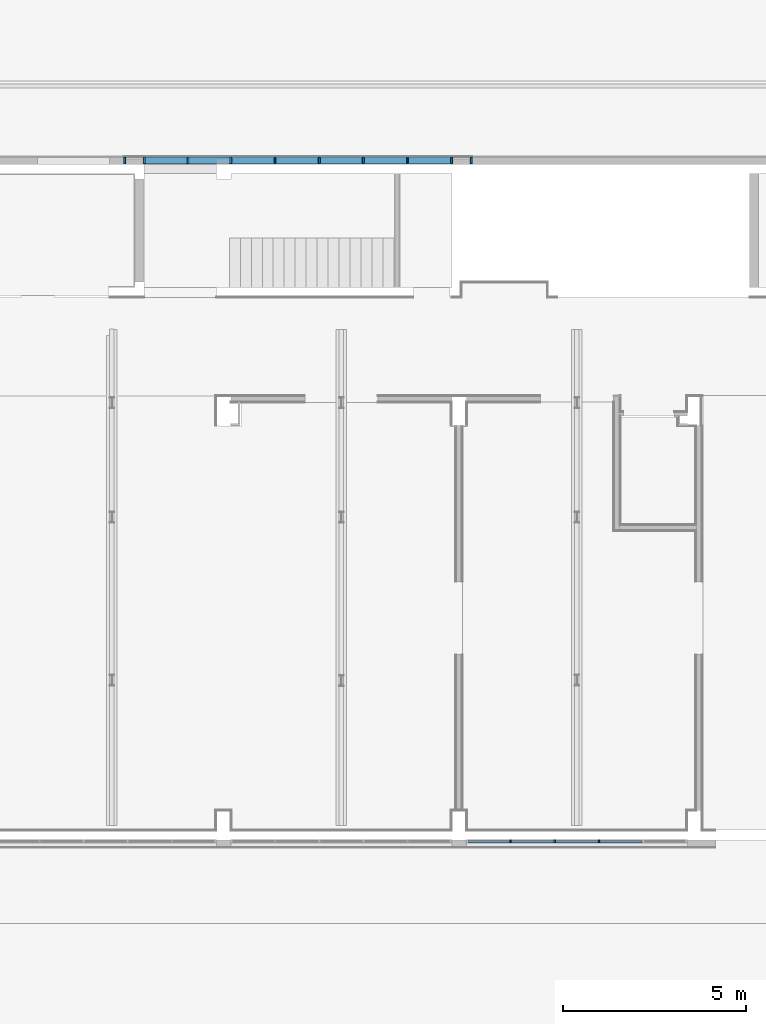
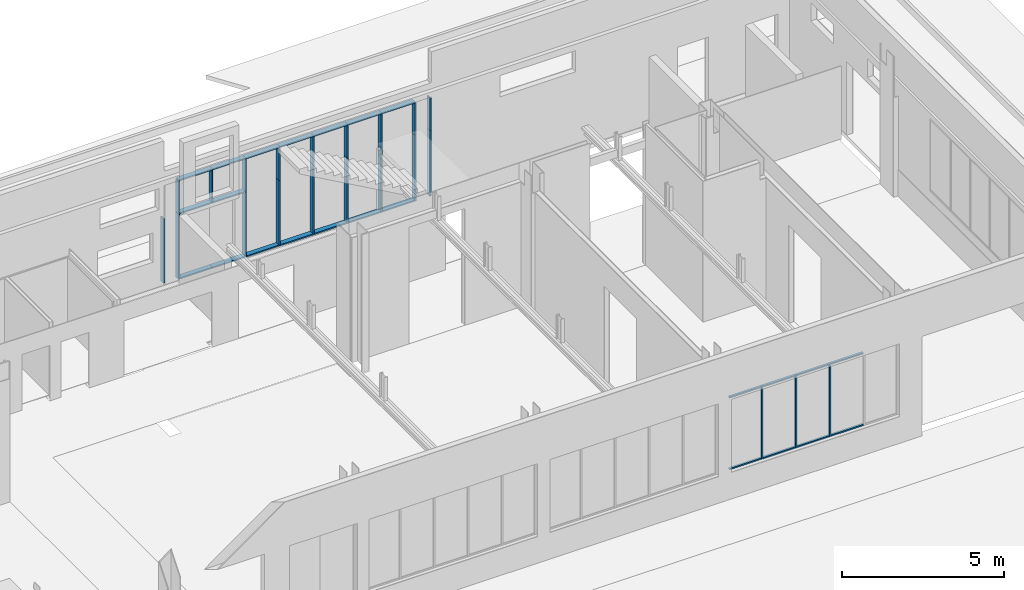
# One storey, part 4 of 27: 45 members, 2 elements without a shape of their own.
"""IFC2X3 building model written with IfcOpenShell, lengths in centimetres."""

from ifc_helpers import new_model, entity, si_unit, converted_unit, derived_unit, direction, frame, origin, origin_2d_with_axis, place, context, subcontext, project, spatial, rectangle, extrude, source, transform, mapped, material, type_object, type_shapes, element, aggregate, save


model = new_model("IFC2X3")

# Units and contexts
model_context = context("Model", 3, precision=0.001, world=origin(), true_north=direction((6.12303176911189e-17, 1.0)))
body_context = subcontext(model_context, "Body", "Model", "MODEL_VIEW")
ifc_project = project(units=[si_unit("LENGTHUNIT", "METRE", prefix="CENTI"), si_unit("AREAUNIT", "SQUARE_METRE"), si_unit("VOLUMEUNIT", "CUBIC_METRE"), converted_unit("PLANEANGLEUNIT", "DEGREE", entity("IfcRatioMeasure", 0.0174532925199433), si_unit("PLANEANGLEUNIT", "RADIAN"), dimensions=[0, 0, 0, 0, 0, 0, 0]), si_unit("MASSUNIT", "GRAM", prefix="KILO"), derived_unit("MASSDENSITYUNIT", [(si_unit("MASSUNIT", "GRAM", prefix="KILO"), 1), (si_unit("LENGTHUNIT", "METRE"), -3)]), derived_unit("MOMENTOFINERTIAUNIT", [(si_unit("LENGTHUNIT", "METRE"), 4)]), si_unit("TIMEUNIT", "SECOND"), si_unit("FREQUENCYUNIT", "HERTZ"), si_unit("THERMODYNAMICTEMPERATUREUNIT", "DEGREE_CELSIUS"), derived_unit("THERMALTRANSMITTANCEUNIT", [(si_unit("MASSUNIT", "GRAM", prefix="KILO"), 1), (si_unit("THERMODYNAMICTEMPERATUREUNIT", "KELVIN"), -1), (si_unit("TIMEUNIT", "SECOND"), -3)]), derived_unit("VOLUMETRICFLOWRATEUNIT", [(si_unit("LENGTHUNIT", "METRE"), 3), (si_unit("TIMEUNIT", "SECOND"), -1)]), si_unit("ELECTRICCURRENTUNIT", "AMPERE"), si_unit("ELECTRICVOLTAGEUNIT", "VOLT"), si_unit("POWERUNIT", "WATT"), si_unit("FORCEUNIT", "NEWTON", prefix="KILO"), si_unit("ILLUMINANCEUNIT", "LUX"), si_unit("LUMINOUSFLUXUNIT", "LUMEN"), si_unit("LUMINOUSINTENSITYUNIT", "CANDELA"), derived_unit("USERDEFINED", [(si_unit("MASSUNIT", "GRAM", prefix="KILO"), -1), (si_unit("LENGTHUNIT", "METRE"), -2), (si_unit("TIMEUNIT", "SECOND"), 3), (si_unit("LUMINOUSFLUXUNIT", "LUMEN"), 1)]), derived_unit("LINEARVELOCITYUNIT", [(si_unit("LENGTHUNIT", "METRE"), 1), (si_unit("TIMEUNIT", "SECOND"), -1)]), si_unit("PRESSUREUNIT", "PASCAL"), derived_unit("USERDEFINED", [(si_unit("LENGTHUNIT", "METRE"), -2), (si_unit("MASSUNIT", "GRAM", prefix="KILO"), 1), (si_unit("TIMEUNIT", "SECOND"), -2)]), derived_unit("LINEARFORCEUNIT", [(si_unit("MASSUNIT", "GRAM", prefix="KILO"), 1), (si_unit("LENGTHUNIT", "METRE"), 1), (si_unit("TIMEUNIT", "SECOND"), -2), (si_unit("LENGTHUNIT", "METRE"), -1)]), derived_unit("PLANARFORCEUNIT", [(si_unit("MASSUNIT", "GRAM", prefix="KILO"), 1), (si_unit("LENGTHUNIT", "METRE"), 1), (si_unit("TIMEUNIT", "SECOND"), -2), (si_unit("LENGTHUNIT", "METRE"), -2)])], contexts=[model_context])

# Site, building, storey
site_placement = place(None, origin())
site = spatial("IfcSite", under=ifc_project, at=site_placement, Name="Default", CompositionType="ELEMENT")
building_placement = place(site_placement, origin())
building = spatial("IfcBuilding", under=site, at=building_placement, CompositionType="ELEMENT")
storey_placement = place(building_placement, origin())
storey = spatial("IfcBuildingStorey", under=building, at=storey_placement, Name="Poziom 0 A +/-0,00", CompositionType="ELEMENT", Elevation=3.38570427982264e-11)

# Curtain wall, members
curtain_wall_type_1 = type_object("IfcCurtainWallType", PredefinedType="NOTDEFINED")
curtain_wall_1_placement = place(storey_placement, origin())
curtain_wall_1 = element("IfcCurtainWall", 1, at=curtain_wall_1_placement, inside=storey, type_object=curtain_wall_type_1)
ifc_material = material(Name="Aluminium")
member_type_1 = type_object("IfcMemberType", Name="Prostokątny szpros:50 x 80mm", PredefinedType="MULLION", material=ifc_material)
shared_shape_1 = source(origin(), body_context, "Body", "SweptSolid", [
    extrude(rectangle(XDim=8.0, YDim=5.0, at=origin_2d_with_axis()), frame((-2.5, 0.0, -113.500173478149), z_axis=(0.0, 0.0, 1.0), x_axis=(0.0, -1.0, 0.0)), (0.0, 0.0, 1.0), 113.500173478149),
])
type_shapes(member_type_1, [shared_shape_1])
member_1_placement = place(curtain_wall_1_placement, frame((-195.762682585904, 251.127499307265, 375.0), z_axis=(1.0, 0.0, 0.0), x_axis=(0.0, 0.0, 1.0)))
member_1 = element("IfcMember", 2, at=member_1_placement, type_object=member_type_1, Name="Prostokątny szpros:50 x 80mm", ObjectType="Prostokątny szpros:50 x 80mm", context=body_context, shape_type="MappedRepresentation", body=[
    mapped(shared_shape_1, transform((0.0, 0.0, 0.0), scale=1.0)),
])
member_type_2 = type_object("IfcMemberType", Name="Prostokątny szpros:50 x 80mm", PredefinedType="MULLION", material=ifc_material)
shared_shape_2 = source(origin(), body_context, "Body", "SweptSolid", [
    extrude(rectangle(XDim=8.0, YDim=5.0, at=origin_2d_with_axis()), frame((-2.5, 0.0, -113.500173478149), z_axis=(0.0, 0.0, 1.0), x_axis=(0.0, -1.0, 0.0)), (0.0, 0.0, 1.0), 113.500173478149),
])
type_shapes(member_type_2, [shared_shape_2])
member_2_placement = place(curtain_wall_1_placement, frame((-309.264988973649, 251.127499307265, 100.0), z_axis=(-1.0, 0.0, 0.0), x_axis=(0.0, 0.0, -1.0)))
member_2 = element("IfcMember", 3, at=member_2_placement, type_object=member_type_2, Name="Prostokątny szpros:50 x 80mm", ObjectType="Prostokątny szpros:50 x 80mm", context=body_context, shape_type="MappedRepresentation", body=[
    mapped(shared_shape_2, transform((0.0, 0.0, 0.0), scale=1.0)),
])
member_type_3 = type_object("IfcMemberType", Name="Prostokątny szpros:50 x 80mm", PredefinedType="MULLION", material=ifc_material)
shared_shape_3 = source(origin(), body_context, "Body", "SweptSolid", [
    extrude(rectangle(XDim=8.0, YDim=5.0, at=origin_2d_with_axis()), frame((-2.5, 0.0, -116.002333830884), z_axis=(0.0, 0.0, 1.0), x_axis=(0.0, -1.0, 0.0)), (0.0, 0.0, 1.0), 116.002333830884),
])
type_shapes(member_type_3, [shared_shape_3])
member_3_placement = place(curtain_wall_1_placement, frame((-190.762682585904, 251.127499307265, 100.0), z_axis=(-1.0, 0.0, 0.0), x_axis=(0.0, 0.0, -1.0)))
member_3 = element("IfcMember", 4, at=member_3_placement, type_object=member_type_3, Name="Prostokątny szpros:50 x 80mm", ObjectType="Prostokątny szpros:50 x 80mm", context=body_context, shape_type="MappedRepresentation", body=[
    mapped(shared_shape_3, transform((0.0, 0.0, 0.0), scale=1.0)),
])
member_4_placement = place(curtain_wall_1_placement, frame((-69.7626825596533, 251.127499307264, 100.0), z_axis=(-1.0, 0.0, 0.0), x_axis=(0.0, 0.0, -1.0)))
member_4 = element("IfcMember", 5, at=member_4_placement, type_object=member_type_3, Name="Prostokątny szpros:50 x 80mm", ObjectType="Prostokątny szpros:50 x 80mm", context=body_context, shape_type="MappedRepresentation", body=[
    mapped(shared_shape_3, transform((0.0, 0.0, 0.0), scale=1.0)),
])
member_5_placement = place(curtain_wall_1_placement, frame((51.2373217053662, 251.127499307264, 100.0), z_axis=(-1.0, 0.0, 0.0), x_axis=(0.0, 0.0, -1.0)))
member_5 = element("IfcMember", 6, at=member_5_placement, type_object=member_type_3, Name="Prostokątny szpros:50 x 80mm", ObjectType="Prostokątny szpros:50 x 80mm", context=body_context, shape_type="MappedRepresentation", body=[
    mapped(shared_shape_3, transform((0.0, 0.0, 0.0), scale=1.0)),
])
member_type_4 = type_object("IfcMemberType", Name="Prostokątny szpros:50 x 80mm", PredefinedType="MULLION", material=ifc_material)
shared_shape_4 = source(origin(), body_context, "Body", "SweptSolid", [
    extrude(rectangle(XDim=8.0, YDim=5.0, at=origin_2d_with_axis()), frame((0.0, 0.0, -275.0), z_axis=(0.0, 0.0, 1.0), x_axis=(0.0, -1.0, 0.0)), (0.0, 0.0, 1.0), 274.999999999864),
])
type_shapes(member_type_4, [shared_shape_4])
member_6_placement = place(curtain_wall_1_placement, frame((-193.262682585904, 251.127499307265, 100.0), z_axis=(0.0, 0.0, -1.0), x_axis=(1.0, 0.0, 0.0)))
member_6 = element("IfcMember", 7, at=member_6_placement, type_object=member_type_4, Name="Prostokątny szpros:50 x 80mm", ObjectType="Prostokątny szpros:50 x 80mm", context=body_context, shape_type="MappedRepresentation", body=[
    mapped(shared_shape_4, transform((0.0, 0.0, 0.0), scale=1.0)),
])
member_7_placement = place(curtain_wall_1_placement, frame((-72.2626825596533, 251.127499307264, 100.0), z_axis=(0.0, 0.0, -1.0), x_axis=(1.0, 0.0, 0.0)))
member_7 = element("IfcMember", 8, at=member_7_placement, type_object=member_type_4, Name="Prostokątny szpros:50 x 80mm", ObjectType="Prostokątny szpros:50 x 80mm", context=body_context, shape_type="MappedRepresentation", body=[
    mapped(shared_shape_4, transform((0.0, 0.0, 0.0), scale=1.0)),
])
member_8_placement = place(curtain_wall_1_placement, frame((48.7373217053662, 251.127499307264, 100.0), z_axis=(0.0, 0.0, -1.0), x_axis=(1.0, 0.0, 0.0)))
member_8 = element("IfcMember", 9, at=member_8_placement, type_object=member_type_4, Name="Prostokątny szpros:50 x 80mm", ObjectType="Prostokątny szpros:50 x 80mm", context=body_context, shape_type="MappedRepresentation", body=[
    mapped(shared_shape_4, transform((0.0, 0.0, 0.0), scale=1.0)),
])
member_type_5 = type_object("IfcMemberType", Name="Prostokątny szpros:50 x 80mm", PredefinedType="MULLION", material=ifc_material)
shared_shape_5 = source(origin(), body_context, "Body", "SweptSolid", [
    extrude(rectangle(XDim=8.0, YDim=5.0, at=origin_2d_with_axis()), frame((-2.5, 0.0, -116.002333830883), z_axis=(0.0, 0.0, 1.0), x_axis=(0.0, -1.0, 0.0)), (0.0, 0.0, 1.0), 116.002333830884),
])
type_shapes(member_type_5, [shared_shape_5])
member_9_placement = place(curtain_wall_1_placement, frame((-74.7626825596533, 251.127499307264, 375.0), z_axis=(1.0, 0.0, 0.0), x_axis=(0.0, 0.0, 1.0)))
member_9 = element("IfcMember", 10, at=member_9_placement, type_object=member_type_5, Name="Prostokątny szpros:50 x 80mm", ObjectType="Prostokątny szpros:50 x 80mm", context=body_context, shape_type="MappedRepresentation", body=[
    mapped(shared_shape_5, transform((0.0, 0.0, 0.0), scale=1.0)),
])
member_10_placement = place(curtain_wall_1_placement, frame((46.2373217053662, 251.127499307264, 375.0), z_axis=(1.0, 0.0, 0.0), x_axis=(0.0, 0.0, 1.0)))
member_10 = element("IfcMember", 11, at=member_10_placement, type_object=member_type_5, Name="Prostokątny szpros:50 x 80mm", ObjectType="Prostokątny szpros:50 x 80mm", context=body_context, shape_type="MappedRepresentation", body=[
    mapped(shared_shape_5, transform((0.0, 0.0, 0.0), scale=1.0)),
])
member_11_placement = place(curtain_wall_1_placement, frame((167.237321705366, 251.127499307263, 375.0), z_axis=(1.0, 0.0, 0.0), x_axis=(0.0, 0.0, 1.0)))
member_11 = element("IfcMember", 12, at=member_11_placement, type_object=member_type_5, Name="Prostokątny szpros:50 x 80mm", ObjectType="Prostokątny szpros:50 x 80mm", context=body_context, shape_type="MappedRepresentation", body=[
    mapped(shared_shape_5, transform((0.0, 0.0, 0.0), scale=1.0)),
])
aggregate(curtain_wall_1, [member_2, member_1, member_3, member_6, member_9, member_4, member_7, member_10, member_5, member_8, member_11])

curtain_wall_type_2 = type_object("IfcCurtainWallType", PredefinedType="NOTDEFINED")
curtain_wall_2_placement = place(storey_placement, origin())
curtain_wall_2 = element("IfcCurtainWall", 13, at=curtain_wall_2_placement, inside=storey, type_object=curtain_wall_type_2)
member_type_6 = type_object("IfcMemberType", Name="Prostokątny szpros:50 x 175mm", PredefinedType="MULLION", material=ifc_material)
shared_shape_6 = source(origin(), body_context, "Body", "SweptSolid", [
    extrude(rectangle(XDim=17.5, YDim=5.0, at=origin_2d_with_axis()), frame((-2.5, 0.0, -121.0), z_axis=(0.0, 0.0, 1.0), x_axis=(0.0, -1.0, 0.0)), (0.0, 0.0, 1.0), 121.0),
])
type_shapes(member_type_6, [shared_shape_6])
member_12_placement = place(curtain_wall_2_placement, frame((-354.265132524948, 2116.37745208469, 375.0), z_axis=(1.0, 0.0, 0.0), x_axis=(0.0, 0.0, 1.0)))
member_12 = element("IfcMember", 14, at=member_12_placement, type_object=member_type_6, Name="Prostokątny szpros:50 x 175mm", ObjectType="Prostokątny szpros:50 x 175mm", context=body_context, shape_type="MappedRepresentation", body=[
    mapped(shared_shape_6, transform((0.0, 0.0, 0.0), scale=1.0)),
])
member_13_placement = place(curtain_wall_2_placement, frame((-475.265132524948, 2116.37745208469, 375.0), z_axis=(1.0, 0.0, 0.0), x_axis=(0.0, 0.0, 1.0)))
member_13 = element("IfcMember", 15, at=member_13_placement, type_object=member_type_6, Name="Prostokątny szpros:50 x 175mm", ObjectType="Prostokątny szpros:50 x 175mm", context=body_context, shape_type="MappedRepresentation", body=[
    mapped(shared_shape_6, transform((0.0, 0.0, 0.0), scale=1.0)),
])
member_14_placement = place(curtain_wall_2_placement, frame((-596.265132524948, 2116.37745208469, 375.0), z_axis=(1.0, 0.0, 0.0), x_axis=(0.0, 0.0, 1.0)))
member_14 = element("IfcMember", 16, at=member_14_placement, type_object=member_type_6, Name="Prostokątny szpros:50 x 175mm", ObjectType="Prostokątny szpros:50 x 175mm", context=body_context, shape_type="MappedRepresentation", body=[
    mapped(shared_shape_6, transform((0.0, 0.0, 0.0), scale=1.0)),
])
member_15_placement = place(curtain_wall_2_placement, frame((-717.265132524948, 2116.37745208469, 375.0), z_axis=(1.0, 0.0, 0.0), x_axis=(0.0, 0.0, 1.0)))
member_15 = element("IfcMember", 17, at=member_15_placement, type_object=member_type_6, Name="Prostokątny szpros:50 x 175mm", ObjectType="Prostokątny szpros:50 x 175mm", context=body_context, shape_type="MappedRepresentation", body=[
    mapped(shared_shape_6, transform((0.0, 0.0, 0.0), scale=1.0)),
])
member_16_placement = place(curtain_wall_2_placement, frame((-838.265132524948, 2116.37745208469, 375.0), z_axis=(1.0, 0.0, 0.0), x_axis=(0.0, 0.0, 1.0)))
member_16 = element("IfcMember", 18, at=member_16_placement, type_object=member_type_6, Name="Prostokątny szpros:50 x 175mm", ObjectType="Prostokątny szpros:50 x 175mm", context=body_context, shape_type="MappedRepresentation", body=[
    mapped(shared_shape_6, transform((0.0, 0.0, 0.0), scale=1.0)),
])
member_type_7 = type_object("IfcMemberType", Name="Prostokątny szpros:50 x 175mm", PredefinedType="MULLION", material=ifc_material)
shared_shape_7 = source(origin(), body_context, "Body", "SweptSolid", [
    extrude(rectangle(XDim=17.5, YDim=5.0, at=origin_2d_with_axis()), frame((-2.5, 0.0, -116.0), z_axis=(0.0, 0.0, 1.0), x_axis=(0.0, -1.0, 0.0)), (0.0, 0.0, 1.0), 116.0),
])
type_shapes(member_type_7, [shared_shape_7])
member_17_placement = place(curtain_wall_2_placement, frame((-472.765132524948, 2116.37745208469, 0.0), z_axis=(-1.0, 0.0, 0.0), x_axis=(0.0, 0.0, -1.0)))
member_17 = element("IfcMember", 19, at=member_17_placement, type_object=member_type_7, Name="Prostokątny szpros:50 x 175mm", ObjectType="Prostokątny szpros:50 x 175mm", context=body_context, shape_type="MappedRepresentation", body=[
    mapped(shared_shape_7, transform((0.0, 0.0, 0.0), scale=1.0)),
])
member_type_8 = type_object("IfcMemberType", Name="Prostokątny szpros:50 x 175mm", PredefinedType="MULLION", material=ifc_material)
shared_shape_8 = source(origin(), body_context, "Body", "SweptSolid", [
    extrude(rectangle(XDim=17.5, YDim=5.0, at=origin_2d_with_axis()), frame((-2.5, 0.0, -118.499982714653), z_axis=(0.0, 0.0, 1.0), x_axis=(0.0, -1.0, 0.0)), (0.0, 0.0, 1.0), 118.499982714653),
])
type_shapes(member_type_8, [shared_shape_8])
member_18_placement = place(curtain_wall_2_placement, frame((-959.265132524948, 2116.37745208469, 375.0), z_axis=(1.0, 0.0, 0.0), x_axis=(0.0, 0.0, 1.0)))
member_18 = element("IfcMember", 20, at=member_18_placement, type_object=member_type_8, Name="Prostokątny szpros:50 x 175mm", ObjectType="Prostokątny szpros:50 x 175mm", context=body_context, shape_type="MappedRepresentation", body=[
    mapped(shared_shape_8, transform((0.0, 0.0, 0.0), scale=1.0)),
])
member_type_9 = type_object("IfcMemberType", Name="Prostokątny szpros:50 x 175mm", PredefinedType="MULLION", material=ifc_material)
shared_shape_9 = source(origin(), body_context, "Body", "SweptSolid", [
    extrude(rectangle(XDim=17.5, YDim=5.0, at=origin_2d_with_axis()), frame((-2.5, 0.0, -119.0), z_axis=(0.0, 0.0, 1.0), x_axis=(0.0, -1.0, 0.0)), (0.0, 0.0, 1.0), 119.0),
])
type_shapes(member_type_9, [shared_shape_9])
member_19_placement = place(curtain_wall_2_placement, frame((-1077.7651152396, 2116.37745208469, 375.0), z_axis=(1.0, 0.0, 0.0), x_axis=(0.0, 0.0, 1.0)))
member_19 = element("IfcMember", 21, at=member_19_placement, type_object=member_type_9, Name="Prostokątny szpros:50 x 175mm", ObjectType="Prostokątny szpros:50 x 175mm", context=body_context, shape_type="MappedRepresentation", body=[
    mapped(shared_shape_9, transform((0.0, 0.0, 0.0), scale=1.0)),
])
member_type_10 = type_object("IfcMemberType", Name="Prostokątny szpros:50 x 175mm", PredefinedType="MULLION", material=ifc_material)
shared_shape_10 = source(origin(), body_context, "Body", "SweptSolid", [
    extrude(rectangle(XDim=17.5, YDim=5.0, at=origin_2d_with_axis()), frame((-2.5, 0.0, -247.499999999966), z_axis=(0.0, 0.0, 1.0), x_axis=(0.0, -1.0, 0.0)), (0.0, 0.0, 1.0), 247.499999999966),
])
type_shapes(member_type_10, [shared_shape_10])
member_20_placement = place(curtain_wall_2_placement, frame((-298.265132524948, 2116.37745208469, 0.0), z_axis=(0.0, 0.0, -1.0), x_axis=(1.0, 0.0, 0.0)))
member_20 = element("IfcMember", 22, at=member_20_placement, type_object=member_type_10, Name="Prostokątny szpros:50 x 175mm", ObjectType="Prostokątny szpros:50 x 175mm", context=body_context, shape_type="MappedRepresentation", body=[
    mapped(shared_shape_10, transform((0.0, 0.0, 0.0), scale=1.0)),
])
member_type_11 = type_object("IfcMemberType", Name="Prostokątny szpros:50 x 175mm", PredefinedType="MULLION", material=ifc_material)
shared_shape_11 = source(origin(), body_context, "Body", "SweptSolid", [
    extrude(rectangle(XDim=17.5, YDim=5.0, at=origin_2d_with_axis()), frame((0.0, 0.0, -247.499999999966), z_axis=(0.0, 0.0, 1.0), x_axis=(0.0, -1.0, 0.0)), (0.0, 0.0, 1.0), 247.499999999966),
])
type_shapes(member_type_11, [shared_shape_11])
member_21_placement = place(curtain_wall_2_placement, frame((-354.265132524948, 2116.37745208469, 0.0), z_axis=(0.0, 0.0, -1.0), x_axis=(1.0, 0.0, 0.0)))
member_21 = element("IfcMember", 23, at=member_21_placement, type_object=member_type_11, Name="Prostokątny szpros:50 x 175mm", ObjectType="Prostokątny szpros:50 x 175mm", context=body_context, shape_type="MappedRepresentation", body=[
    mapped(shared_shape_11, transform((0.0, 0.0, 0.0), scale=1.0)),
])
member_22_placement = place(curtain_wall_2_placement, frame((-475.265132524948, 2116.37745208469, 0.0), z_axis=(0.0, 0.0, -1.0), x_axis=(1.0, 0.0, 0.0)))
member_22 = element("IfcMember", 24, at=member_22_placement, type_object=member_type_11, Name="Prostokątny szpros:50 x 175mm", ObjectType="Prostokątny szpros:50 x 175mm", context=body_context, shape_type="MappedRepresentation", body=[
    mapped(shared_shape_11, transform((0.0, 0.0, 0.0), scale=1.0)),
])
member_23_placement = place(curtain_wall_2_placement, frame((-717.265132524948, 2116.37745208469, 0.0), z_axis=(0.0, 0.0, -1.0), x_axis=(1.0, 0.0, 0.0)))
member_23 = element("IfcMember", 25, at=member_23_placement, type_object=member_type_11, Name="Prostokątny szpros:50 x 175mm", ObjectType="Prostokątny szpros:50 x 175mm", context=body_context, shape_type="MappedRepresentation", body=[
    mapped(shared_shape_11, transform((0.0, 0.0, 0.0), scale=1.0)),
])
member_type_12 = type_object("IfcMemberType", Name="Prostokątny szpros:50 x 175mm", PredefinedType="MULLION", material=ifc_material)
shared_shape_12 = source(origin(), body_context, "Body", "SweptSolid", [
    extrude(rectangle(XDim=17.5, YDim=5.0, at=origin_2d_with_axis()), frame((-2.5, 0.0, -118.5), z_axis=(0.0, 0.0, 1.0), x_axis=(0.0, -1.0, 0.0)), (0.0, 0.0, 1.0), 118.5),
])
type_shapes(member_type_12, [shared_shape_12])
member_24_placement = place(curtain_wall_2_placement, frame((-596.265132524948, 2116.37745208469, 0.0), z_axis=(-1.0, 0.0, 0.0), x_axis=(0.0, 0.0, -1.0)))
member_24 = element("IfcMember", 26, at=member_24_placement, type_object=member_type_12, Name="Prostokątny szpros:50 x 175mm", ObjectType="Prostokątny szpros:50 x 175mm", context=body_context, shape_type="MappedRepresentation", body=[
    mapped(shared_shape_12, transform((0.0, 0.0, 0.0), scale=1.0)),
])
member_25_placement = place(curtain_wall_2_placement, frame((-838.265132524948, 2116.37745208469, 0.0), z_axis=(-1.0, 0.0, 0.0), x_axis=(0.0, 0.0, -1.0)))
member_25 = element("IfcMember", 27, at=member_25_placement, type_object=member_type_12, Name="Prostokątny szpros:50 x 175mm", ObjectType="Prostokątny szpros:50 x 175mm", context=body_context, shape_type="MappedRepresentation", body=[
    mapped(shared_shape_12, transform((0.0, 0.0, 0.0), scale=1.0)),
])
member_type_13 = type_object("IfcMemberType", Name="Prostokątny szpros:50 x 175mm", PredefinedType="MULLION", material=ifc_material)
shared_shape_13 = source(origin(), body_context, "Body", "SweptSolid", [
    extrude(rectangle(XDim=17.5, YDim=5.0, at=origin_2d_with_axis()), frame((0.0, 0.0, -242.499999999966), z_axis=(0.0, 0.0, 1.0), x_axis=(0.0, -1.0, 0.0)), (0.0, 0.0, 1.0), 242.499999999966),
])
type_shapes(member_type_13, [shared_shape_13])
member_26_placement = place(curtain_wall_2_placement, frame((-596.265132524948, 2116.37745208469, 5.0), z_axis=(0.0, 0.0, -1.0), x_axis=(1.0, 0.0, 0.0)))
member_26 = element("IfcMember", 28, at=member_26_placement, type_object=member_type_13, Name="Prostokątny szpros:50 x 175mm", ObjectType="Prostokątny szpros:50 x 175mm", context=body_context, shape_type="MappedRepresentation", body=[
    mapped(shared_shape_13, transform((0.0, 0.0, 0.0), scale=1.0)),
])
member_27_placement = place(curtain_wall_2_placement, frame((-838.265132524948, 2116.37745208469, 5.0), z_axis=(0.0, 0.0, -1.0), x_axis=(1.0, 0.0, 0.0)))
member_27 = element("IfcMember", 29, at=member_27_placement, type_object=member_type_13, Name="Prostokątny szpros:50 x 175mm", ObjectType="Prostokątny szpros:50 x 175mm", context=body_context, shape_type="MappedRepresentation", body=[
    mapped(shared_shape_13, transform((0.0, 0.0, 0.0), scale=1.0)),
])
member_type_14 = type_object("IfcMemberType", Name="Prostokątny szpros:50 x 175mm", PredefinedType="MULLION", material=ifc_material)
shared_shape_14 = source(origin(), body_context, "Body", "SweptSolid", [
    extrude(rectangle(XDim=17.5, YDim=5.0, at=origin_2d_with_axis()), frame((-2.5, 0.0, -118.5), z_axis=(0.0, 0.0, 1.0), x_axis=(0.0, -1.0, 0.0)), (0.0, 0.0, 1.0), 118.5),
])
type_shapes(member_type_14, [shared_shape_14])
member_28_placement = place(curtain_wall_2_placement, frame((-714.765132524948, 2116.37745208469, 0.0), z_axis=(-1.0, 0.0, 0.0), x_axis=(0.0, 0.0, -1.0)))
member_28 = element("IfcMember", 30, at=member_28_placement, type_object=member_type_14, Name="Prostokątny szpros:50 x 175mm", ObjectType="Prostokątny szpros:50 x 175mm", context=body_context, shape_type="MappedRepresentation", body=[
    mapped(shared_shape_14, transform((0.0, 0.0, 0.0), scale=1.0)),
])
member_29_placement = place(curtain_wall_2_placement, frame((-956.765132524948, 2116.37745208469, 0.0), z_axis=(-1.0, 0.0, 0.0), x_axis=(0.0, 0.0, -1.0)))
member_29 = element("IfcMember", 31, at=member_29_placement, type_object=member_type_14, Name="Prostokątny szpros:50 x 175mm", ObjectType="Prostokątny szpros:50 x 175mm", context=body_context, shape_type="MappedRepresentation", body=[
    mapped(shared_shape_14, transform((0.0, 0.0, 0.0), scale=1.0)),
])
member_type_15 = type_object("IfcMemberType", Name="Prostokątny szpros:50 x 175mm", PredefinedType="MULLION", material=ifc_material)
shared_shape_15 = source(origin(), body_context, "Body", "SweptSolid", [
    extrude(rectangle(XDim=17.5, YDim=5.0, at=origin_2d_with_axis()), frame((0.0, 0.0, -245.0), z_axis=(0.0, 0.0, 1.0), x_axis=(0.0, -1.0, 0.0)), (0.0, 0.0, 1.0), 244.999999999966),
])
type_shapes(member_type_15, [shared_shape_15])
member_30_placement = place(curtain_wall_2_placement, frame((-959.265132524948, 2116.37745208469, 0.0), z_axis=(0.0, 0.0, -1.0), x_axis=(1.0, 0.0, 0.0)))
member_30 = element("IfcMember", 32, at=member_30_placement, type_object=member_type_15, Name="Prostokątny szpros:50 x 175mm", ObjectType="Prostokątny szpros:50 x 175mm", context=body_context, shape_type="MappedRepresentation", body=[
    mapped(shared_shape_15, transform((0.0, 0.0, 0.0), scale=1.0)),
])
member_31_placement = place(curtain_wall_2_placement, frame((-1196.7651152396, 2116.37745208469, 0.0), z_axis=(0.0, 0.0, -1.0), x_axis=(1.0, 0.0, 0.0)))
member_31 = element("IfcMember", 33, at=member_31_placement, type_object=member_type_15, Name="Prostokątny szpros:50 x 175mm", ObjectType="Prostokątny szpros:50 x 175mm", context=body_context, shape_type="MappedRepresentation", body=[
    mapped(shared_shape_15, transform((0.0, 0.0, 0.0), scale=1.0)),
])
member_type_16 = type_object("IfcMemberType", Name="Prostokątny szpros:50 x 175mm", PredefinedType="MULLION", material=ifc_material)
shared_shape_16 = source(origin(), body_context, "Body", "SweptSolid", [
    extrude(rectangle(XDim=17.5, YDim=5.0, at=origin_2d_with_axis()), frame((-2.5, 0.0, -115.999982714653), z_axis=(0.0, 0.0, 1.0), x_axis=(0.0, -1.0, 0.0)), (0.0, 0.0, 1.0), 115.999982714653),
])
type_shapes(member_type_16, [shared_shape_16])
member_32_placement = place(curtain_wall_2_placement, frame((-1077.7651152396, 2116.37745208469, 0.0), z_axis=(-1.0, 0.0, 0.0), x_axis=(0.0, 0.0, -1.0)))
member_32 = element("IfcMember", 34, at=member_32_placement, type_object=member_type_16, Name="Prostokątny szpros:50 x 175mm", ObjectType="Prostokątny szpros:50 x 175mm", context=body_context, shape_type="MappedRepresentation", body=[
    mapped(shared_shape_16, transform((0.0, 0.0, 0.0), scale=1.0)),
])
member_type_17 = type_object("IfcMemberType", Name="Prostokątny szpros:50 x 175mm", PredefinedType="MULLION", material=ifc_material)
shared_shape_17 = source(origin(), body_context, "Body", "SweptSolid", [
    extrude(rectangle(XDim=17.5, YDim=5.0, at=origin_2d_with_axis()), frame((-2.5, 0.0, -116.5), z_axis=(0.0, 0.0, 1.0), x_axis=(0.0, -1.0, 0.0)), (0.0, 0.0, 1.0), 116.5),
])
type_shapes(member_type_17, [shared_shape_17])
member_33_placement = place(curtain_wall_2_placement, frame((-1194.2651152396, 2116.37745208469, 0.0), z_axis=(-1.0, 0.0, 0.0), x_axis=(0.0, 0.0, -1.0)))
member_33 = element("IfcMember", 35, at=member_33_placement, type_object=member_type_17, Name="Prostokątny szpros:50 x 175mm", ObjectType="Prostokątny szpros:50 x 175mm", context=body_context, shape_type="MappedRepresentation", body=[
    mapped(shared_shape_17, transform((0.0, 0.0, 0.0), scale=1.0)),
])
member_type_18 = type_object("IfcMemberType", Name="Prostokątny szpros:50 x 175mm", PredefinedType="MULLION", material=ifc_material)
shared_shape_18 = source(origin(), body_context, "Body", "SweptSolid", [
    extrude(rectangle(XDim=17.5, YDim=5.0, at=origin_2d_with_axis()), frame((-2.5, 0.0, -122.5), z_axis=(0.0, 0.0, 1.0), x_axis=(0.0, -1.0, 0.0)), (0.0, 0.0, 1.0), 122.5),
])
type_shapes(member_type_18, [shared_shape_18])
member_34_placement = place(curtain_wall_2_placement, frame((-298.265132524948, 2116.37745208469, 247.499999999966), z_axis=(0.0, 0.0, -1.0), x_axis=(1.0, 0.0, 0.0)))
member_34 = element("IfcMember", 36, at=member_34_placement, type_object=member_type_18, Name="Prostokątny szpros:50 x 175mm", ObjectType="Prostokątny szpros:50 x 175mm", context=body_context, shape_type="MappedRepresentation", body=[
    mapped(shared_shape_18, transform((0.0, 0.0, 0.0), scale=1.0)),
])
member_type_19 = type_object("IfcMemberType", Name="Prostokątny szpros:50 x 175mm", PredefinedType="MULLION", material=ifc_material)
shared_shape_19 = source(origin(), body_context, "Body", "SweptSolid", [
    extrude(rectangle(XDim=17.5, YDim=5.0, at=origin_2d_with_axis()), frame((-2.5, 0.0, -242.499999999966), z_axis=(0.0, 0.0, 1.0), x_axis=(0.0, -1.0, 0.0)), (0.0, 0.0, 1.0), 242.499999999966),
])
type_shapes(member_type_19, [shared_shape_19])
member_35_placement = place(curtain_wall_2_placement, frame((-1252.7651152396, 2116.37745208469, 247.499999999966), z_axis=(0.0, 0.0, 1.0), x_axis=(-1.0, 0.0, 0.0)))
member_35 = element("IfcMember", 37, at=member_35_placement, type_object=member_type_19, Name="Prostokątny szpros:50 x 175mm", ObjectType="Prostokątny szpros:50 x 175mm", context=body_context, shape_type="MappedRepresentation", body=[
    mapped(shared_shape_19, transform((0.0, 0.0, 0.0), scale=1.0)),
])
member_type_20 = type_object("IfcMemberType", Name="Prostokątny szpros:50 x 175mm", PredefinedType="MULLION", material=ifc_material)
shared_shape_20 = source(origin(), body_context, "Body", "SweptSolid", [
    extrude(rectangle(XDim=17.5, YDim=5.0, at=origin_2d_with_axis()), frame((0.0, 0.0, -120.999982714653), z_axis=(0.0, 0.0, 1.0), x_axis=(0.0, -1.0, 0.0)), (0.0, 0.0, 1.0), 120.999982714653),
])
type_shapes(member_type_20, [shared_shape_20])
member_36_placement = place(curtain_wall_2_placement, frame((-956.765132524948, 2116.37745208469, 247.499999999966), z_axis=(1.0, 0.0, 0.0), x_axis=(0.0, 0.0, 1.0)))
member_36 = element("IfcMember", 38, at=member_36_placement, type_object=member_type_20, Name="Prostokątny szpros:50 x 175mm", ObjectType="Prostokątny szpros:50 x 175mm", context=body_context, shape_type="MappedRepresentation", body=[
    mapped(shared_shape_20, transform((0.0, 0.0, 0.0), scale=1.0)),
])
member_type_21 = type_object("IfcMemberType", Name="Prostokątny szpros:50 x 175mm", PredefinedType="MULLION", material=ifc_material)
shared_shape_21 = source(origin(), body_context, "Body", "SweptSolid", [
    extrude(rectangle(XDim=17.5, YDim=5.0, at=origin_2d_with_axis()), frame((0.0, 0.0, -120.0), z_axis=(0.0, 0.0, 1.0), x_axis=(0.0, -1.0, 0.0)), (0.0, 0.0, 1.0), 120.0),
])
type_shapes(member_type_21, [shared_shape_21])
member_37_placement = place(curtain_wall_2_placement, frame((-1196.7651152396, 2116.37745208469, 250.0), z_axis=(0.0, 0.0, -1.0), x_axis=(1.0, 0.0, 0.0)))
member_37 = element("IfcMember", 39, at=member_37_placement, type_object=member_type_21, Name="Prostokątny szpros:50 x 175mm", ObjectType="Prostokątny szpros:50 x 175mm", context=body_context, shape_type="MappedRepresentation", body=[
    mapped(shared_shape_21, transform((0.0, 0.0, 0.0), scale=1.0)),
])
member_38_placement = place(curtain_wall_2_placement, frame((-1077.7651152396, 2116.37745208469, 250.0), z_axis=(0.0, 0.0, -1.0), x_axis=(1.0, 0.0, 0.0)))
member_38 = element("IfcMember", 40, at=member_38_placement, type_object=member_type_21, Name="Prostokątny szpros:50 x 175mm", ObjectType="Prostokątny szpros:50 x 175mm", context=body_context, shape_type="MappedRepresentation", body=[
    mapped(shared_shape_21, transform((0.0, 0.0, 0.0), scale=1.0)),
])
member_39_placement = place(curtain_wall_2_placement, frame((-959.265132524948, 2116.37745208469, 250.0), z_axis=(0.0, 0.0, -1.0), x_axis=(1.0, 0.0, 0.0)))
member_39 = element("IfcMember", 41, at=member_39_placement, type_object=member_type_21, Name="Prostokątny szpros:50 x 175mm", ObjectType="Prostokątny szpros:50 x 175mm", context=body_context, shape_type="MappedRepresentation", body=[
    mapped(shared_shape_21, transform((0.0, 0.0, 0.0), scale=1.0)),
])
member_type_22 = type_object("IfcMemberType", Name="Prostokątny szpros:50 x 175mm", PredefinedType="MULLION", material=ifc_material)
shared_shape_22 = source(origin(), body_context, "Body", "SweptSolid", [
    extrude(rectangle(XDim=17.5, YDim=5.0, at=origin_2d_with_axis()), frame((0.0, 0.0, -122.5), z_axis=(0.0, 0.0, 1.0), x_axis=(0.0, -1.0, 0.0)), (0.0, 0.0, 1.0), 122.5),
])
type_shapes(member_type_22, [shared_shape_22])
member_40_placement = place(curtain_wall_2_placement, frame((-838.265132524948, 2116.37745208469, 247.499999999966), z_axis=(0.0, 0.0, -1.0), x_axis=(1.0, 0.0, 0.0)))
member_40 = element("IfcMember", 42, at=member_40_placement, type_object=member_type_22, Name="Prostokątny szpros:50 x 175mm", ObjectType="Prostokątny szpros:50 x 175mm", context=body_context, shape_type="MappedRepresentation", body=[
    mapped(shared_shape_22, transform((0.0, 0.0, 0.0), scale=1.0)),
])
member_41_placement = place(curtain_wall_2_placement, frame((-717.265132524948, 2116.37745208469, 247.499999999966), z_axis=(0.0, 0.0, -1.0), x_axis=(1.0, 0.0, 0.0)))
member_41 = element("IfcMember", 43, at=member_41_placement, type_object=member_type_22, Name="Prostokątny szpros:50 x 175mm", ObjectType="Prostokątny szpros:50 x 175mm", context=body_context, shape_type="MappedRepresentation", body=[
    mapped(shared_shape_22, transform((0.0, 0.0, 0.0), scale=1.0)),
])
member_42_placement = place(curtain_wall_2_placement, frame((-596.265132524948, 2116.37745208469, 247.499999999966), z_axis=(0.0, 0.0, -1.0), x_axis=(1.0, 0.0, 0.0)))
member_42 = element("IfcMember", 44, at=member_42_placement, type_object=member_type_22, Name="Prostokątny szpros:50 x 175mm", ObjectType="Prostokątny szpros:50 x 175mm", context=body_context, shape_type="MappedRepresentation", body=[
    mapped(shared_shape_22, transform((0.0, 0.0, 0.0), scale=1.0)),
])
member_43_placement = place(curtain_wall_2_placement, frame((-475.265132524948, 2116.37745208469, 247.499999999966), z_axis=(0.0, 0.0, -1.0), x_axis=(1.0, 0.0, 0.0)))
member_43 = element("IfcMember", 45, at=member_43_placement, type_object=member_type_22, Name="Prostokątny szpros:50 x 175mm", ObjectType="Prostokątny szpros:50 x 175mm", context=body_context, shape_type="MappedRepresentation", body=[
    mapped(shared_shape_22, transform((0.0, 0.0, 0.0), scale=1.0)),
])
member_44_placement = place(curtain_wall_2_placement, frame((-354.265132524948, 2116.37745208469, 247.499999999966), z_axis=(0.0, 0.0, -1.0), x_axis=(1.0, 0.0, 0.0)))
member_44 = element("IfcMember", 46, at=member_44_placement, type_object=member_type_22, Name="Prostokątny szpros:50 x 175mm", ObjectType="Prostokątny szpros:50 x 175mm", context=body_context, shape_type="MappedRepresentation", body=[
    mapped(shared_shape_22, transform((0.0, 0.0, 0.0), scale=1.0)),
])
member_type_23 = type_object("IfcMemberType", Name="Prostokątny szpros:50 x 175mm", PredefinedType="MULLION", material=ifc_material)
shared_shape_23 = source(origin(), body_context, "Body", "SweptSolid", [
    extrude(rectangle(XDim=17.5, YDim=5.0, at=origin_2d_with_axis()), frame((0.0, 0.0, -121.5), z_axis=(0.0, 0.0, 1.0), x_axis=(0.0, -1.0, 0.0)), (0.0, 0.0, 1.0), 121.5),
])
type_shapes(member_type_23, [shared_shape_23])
member_45_placement = place(curtain_wall_2_placement, frame((-1077.7651152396, 2116.37745208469, 247.499999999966), z_axis=(1.0, 0.0, 0.0), x_axis=(0.0, 0.0, 1.0)))
member_45 = element("IfcMember", 47, at=member_45_placement, type_object=member_type_23, Name="Prostokątny szpros:50 x 175mm", ObjectType="Prostokątny szpros:50 x 175mm", context=body_context, shape_type="MappedRepresentation", body=[
    mapped(shared_shape_23, transform((0.0, 0.0, 0.0), scale=1.0)),
])
aggregate(curtain_wall_2, [member_20, member_12, member_21, member_13, member_17, member_22, member_14, member_24, member_26, member_15, member_28, member_23, member_16, member_25, member_27, member_18, member_29, member_30, member_19, member_32, member_33, member_31, member_34, member_35, member_36, member_37, member_38, member_39, member_40, member_41, member_42, member_43, member_44, member_45])

save(model, "model.ifc")
